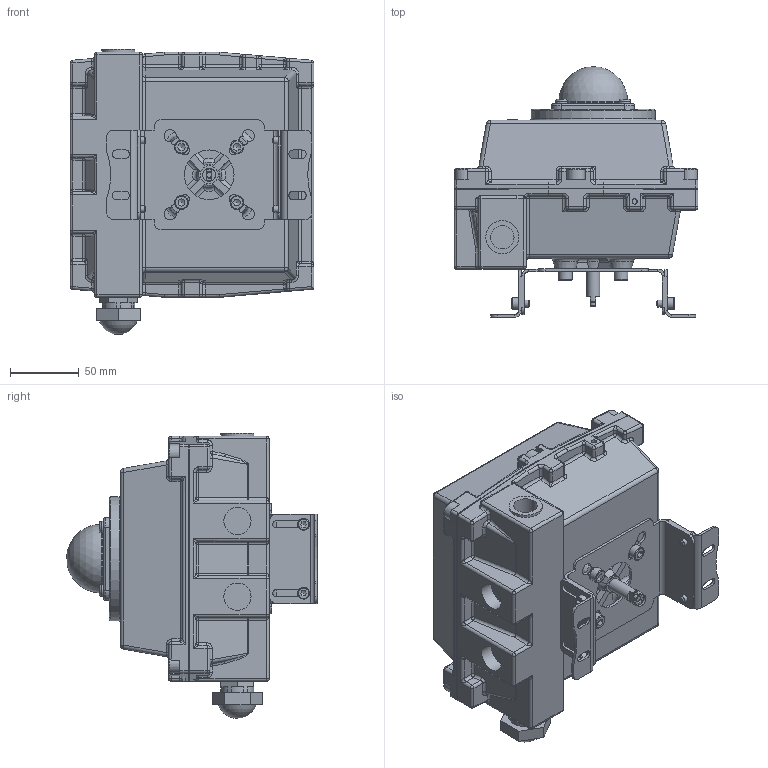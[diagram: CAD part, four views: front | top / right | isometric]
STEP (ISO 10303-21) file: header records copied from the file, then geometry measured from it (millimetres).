
FILE_DESCRIPTION(('STEP AP203'), '1');
FILE_NAME('APL-410N 岭铌 觐眦邂 恹觌囹咫彘 DN.ru', '2026-04-19T21:23:41', ('R2D2'), (''), 'C3D Converter', 'C3D Toolkit', '');
FILE_SCHEMA(('CONFIG_CONTROL_DESIGN'));
Length unit declared in the file: millimetre
Products named in the file (1): APL-410N EX
Bounding box: 177 x 182 x 207 mm (x, y, z)
Volume: 54706.3 mm3; surface area: 175131.4 mm2
Topology: 2 solids, 3 shells, 1157 faces, 2904 edges, 1674 vertices
Faces by surface type: plane 455, cylinder 382, bspline 115, sphere 75, torus 65, cone 38, extrusion 27
Full cylindrical faces by diameter (mm): 4 x1, 5 x4, 6 x4, 8 x4, 8.5 x4, 9.5 x1, 10 x4, 13 x7, 16 x1, 17 x2, 19.8 x2, 24 x1, 36 x1, 50 x1, 90 x1
Entity records: 53314 total; most frequent: CARTESIAN_POINT 18221, ORIENTED_EDGE 5378, DIRECTION 5153, EDGE_CURVE 2690, AXIS2_PLACEMENT_3D 1825, VERTEX_POINT 1658, VECTOR 1503, LINE 1476
